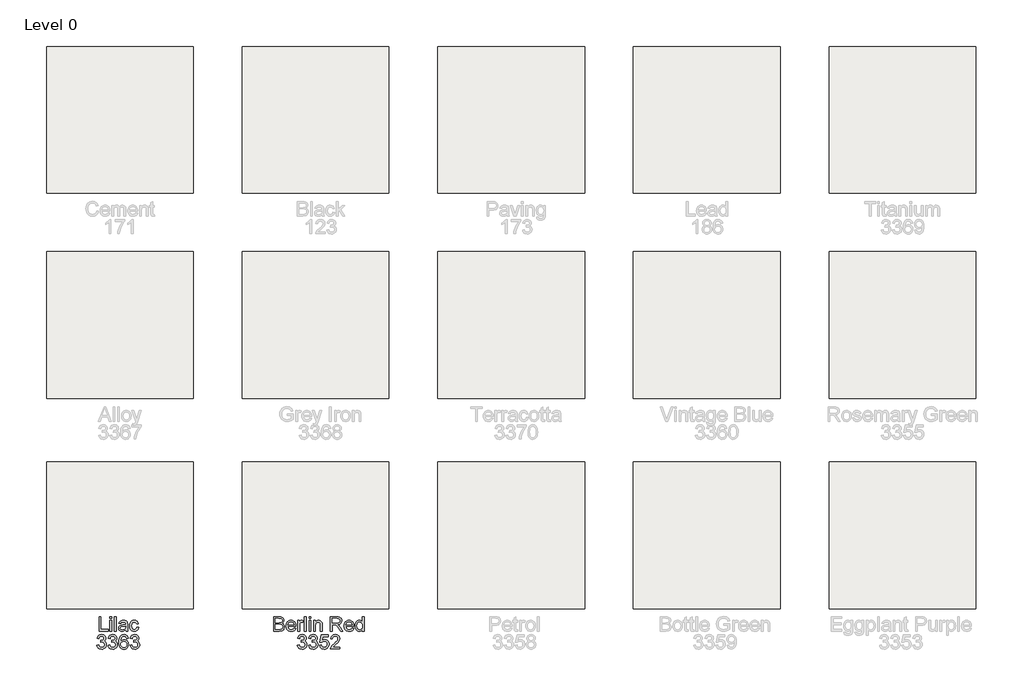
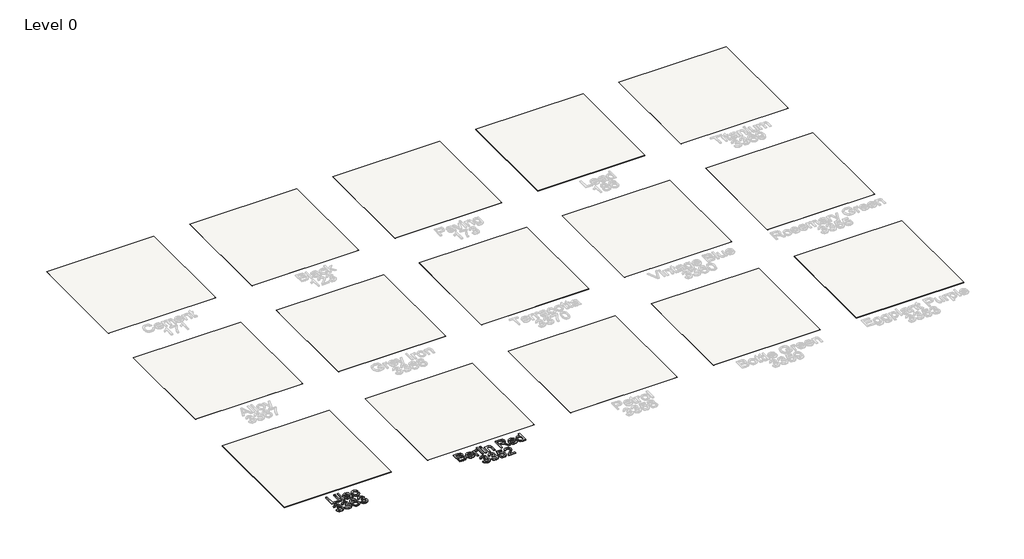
# One storey, part 1 of 6: 15 coverings, 2 proxies.
"""IFC4 building model written with IfcOpenShell, lengths in millimetres."""

from ifc_helpers import new_model, si_unit, frame, origin, origin_with_axes, place, context, project, spatial, polyline, outline, extrude, element, save

model = new_model("IFC4")

# Units and contexts
model_context = context("Model", 3, world=origin())
ifc_project = project(units=[si_unit("LENGTHUNIT", "METRE", prefix="MILLI")], contexts=[model_context])

# Site, building, storey
site = spatial("IfcSite", under=ifc_project)
building = spatial("IfcBuilding", under=site)
storey = spatial("IfcBuildingStorey", under=building, Name="Level 0", Elevation=0.0)

# Proxies
placement = place(None, origin())
element("IfcBuildingElementProxy", 1, Name="300mm Arial", ObjectType="300mm Arial", at=placement, inside=storey, context=model_context, shape_type="SweptSolid", body=[
    extrude(outline(polyline([(-8377.8562987, -6431.0059242), (-8377.8562987, -6135.6213089), (-8340.9332218, -6135.6213089), (-8340.9332218, -6394.0828473), (-8193.2409141, -6394.0828473), (-8193.2409141, -6431.0059242), (-8377.8562987, -6431.0059242)])), origin_with_axes(), (0.0, 0.0, 1.0), 20.0),
    extrude(outline(polyline([(-8156.3178371, -6172.5443858), (-8156.3178371, -6135.6213089), (-8119.3947602, -6135.6213089), (-8119.3947602, -6172.5443858), (-8156.3178371, -6172.5443858)])), origin_with_axes(), (0.0, 0.0, 1.0), 20.0),
    extrude(outline(polyline([(-8156.3178371, -6431.0059242), (-8156.3178371, -6214.0828473), (-8119.3947602, -6214.0828473), (-8119.3947602, -6431.0059242), (-8156.3178371, -6431.0059242)])), origin_with_axes(), (0.0, 0.0, 1.0), 20.0),
    extrude(outline(polyline([(-8064.0101448, -6431.0059242), (-8064.0101448, -6135.6213089), (-8027.0870679, -6135.6213089), (-8027.0870679, -6431.0059242), (-8064.0101448, -6431.0059242)])), origin_with_axes(), (0.0, 0.0, 1.0), 20.0),
    extrude(outline(polyline([(-7833.2409141, -6403.3136166), (-7850.88214, -6418.4398185), (-7869.0462025, -6428.337655), (-7888.147765, -6433.8003954), (-7908.601491, -6435.6213089), (-7939.4578612, -6431.2402992), (-7962.2192794, -6418.0972704), (-7976.2547362, -6398.1393377), (-7980.9332218, -6373.3136166), (-7979.1663948, -6358.0071262), (-7973.8659141, -6344.1068858), (-7965.6898323, -6332.2078473), (-7955.2962025, -6322.9049627), (-7929.4428371, -6310.7895781), (-7897.4957218, -6305.2366935), (-7859.7433179, -6299.3953473), (-7833.4572602, -6292.5443858), (-7833.2409141, -6284.3232319), (-7835.7829814, -6267.8448666), (-7843.4091833, -6257.0636166), (-7860.4644718, -6249.0588089), (-7884.226491, -6246.3905396), (-7906.2216833, -6248.166381), (-7921.5822602, -6253.493905), (-7932.0570198, -6263.3466694), (-7939.3947602, -6278.6982319), (-7976.3178371, -6274.0828473), (-7969.9085823, -6253.8905396), (-7960.3442794, -6238.025155), (-7946.7325006, -6225.8917416), (-7928.1808179, -6216.8953473), (-7905.491515, -6211.3244339), (-7879.4668756, -6209.4674627), (-7854.5059381, -6211.1080877), (-7834.7192794, -6216.0299627), (-7819.8004093, -6223.4308041), (-7809.4428371, -6232.5083281), (-7802.5738468, -6243.7312848), (-7798.1207218, -6257.5684242), (-7796.3178371, -6289.8761166), (-7796.3178371, -6335.8136166), (-7794.4428371, -6399.9602512), (-7787.0870679, -6431.0059242), (-7824.0101448, -6431.0059242), (-7833.2409141, -6403.3136166)]), holes=[polyline([(-7833.2409141, -6329.4674627), (-7892.8082218, -6340.7895781), (-7924.5750487, -6346.775155), (-7938.9620679, -6356.5107319), (-7944.0101448, -6370.7174627), (-7941.2607458, -6381.69703), (-7933.0125487, -6390.6934242), (-7919.4458419, -6396.69703), (-7900.7409141, -6398.6982319), (-7880.9091833, -6396.4896983), (-7863.3851448, -6389.8640973), (-7849.1784141, -6380.1014771), (-7839.2986064, -6368.4818858), (-7834.9175968, -6356.5107319), (-7833.4572602, -6339.9241935), (-7833.2409141, -6329.4674627)])]), origin_with_axes(), (0.0, 0.0, 1.0), 20.0),
    extrude(outline(polyline([(-7607.0870679, -6352.5443858), (-7570.163991, -6357.1597704), (-7580.4584621, -6389.9993137), (-7599.8034141, -6414.8160204), (-7626.3779333, -6430.4199867), (-7658.3611064, -6435.6213089), (-7679.0694898, -6433.8071562), (-7697.6369477, -6428.3646983), (-7714.0634802, -6419.2939351), (-7728.3490871, -6406.5948666), (-7739.9123383, -6390.506375), (-7748.1718035, -6371.2673425), (-7753.1274826, -6348.8777692), (-7754.7793756, -6323.337655), (-7751.9578612, -6290.4800829), (-7743.4933179, -6262.0035204), (-7729.2505294, -6239.0077271), (-7709.0942794, -6222.5924627), (-7684.9806977, -6212.7487127), (-7658.8659141, -6209.4674627), (-7627.6669958, -6213.9746742), (-7602.7240871, -6227.4963089), (-7584.8304573, -6249.3112127), (-7574.7793756, -6278.6982319), (-7611.7024525, -6283.3136166), (-7618.4001689, -6267.2048425), (-7628.8298564, -6255.6573666), (-7642.4145919, -6248.7072464), (-7658.5774525, -6246.3905396), (-7682.4386304, -6250.9518377), (-7701.3779333, -6264.6357319), (-7713.7367073, -6288.181405), (-7717.8562987, -6322.3280396), (-7713.8268516, -6356.9344098), (-7701.7385102, -6380.5612127), (-7683.1417554, -6394.1639771), (-7659.5870679, -6398.6982319), (-7640.4674766, -6395.8677031), (-7624.7913948, -6387.3761166), (-7613.3881496, -6373.0071262), (-7607.0870679, -6352.5443858)])), origin_with_axes(), (0.0, 0.0, 1.0), 20.0),
    extrude(outline(polyline([(-8421.7024525, -6717.1597704), (-8384.7793756, -6712.5443858), (-8376.5131496, -6735.7475108), (-8364.4067794, -6751.4145781), (-8347.8653131, -6760.3388569), (-8326.2937987, -6763.3136166), (-8300.9812987, -6759.2210685), (-8281.4380294, -6746.9434242), (-8268.9440391, -6728.6261166), (-8264.7793756, -6706.4145781), (-8268.9079814, -6685.3298425), (-8281.2937987, -6668.2294819), (-8300.0437987, -6656.8983521), (-8323.2649525, -6653.1213089), (-8349.1543756, -6657.1597704), (-8345.0437987, -6620.2366935), (-8339.1303371, -6620.6693858), (-8317.0089429, -6618.0191454), (-8297.2312987, -6610.0684242), (-8283.2769718, -6596.618905), (-8278.6255294, -6577.4722704), (-8281.9969237, -6561.525756), (-8292.1111064, -6548.5900589), (-8307.5437987, -6540.0173425), (-8326.8707218, -6537.1597704), (-8346.2337025, -6540.0443858), (-8362.0630294, -6548.6982319), (-8373.6195198, -6563.1213089), (-8380.163991, -6583.3136166), (-8417.0870679, -6578.6982319), (-8406.2156737, -6545.5431839), (-8386.8707218, -6520.7895781), (-8360.4043756, -6505.3749146), (-8328.1687987, -6500.2366935), (-8304.9566593, -6502.7697464), (-8283.6375487, -6510.368905), (-8265.6627891, -6522.3580877), (-8252.4837025, -6538.0612127), (-8244.397765, -6556.1531598), (-8241.7024525, -6575.3088089), (-8244.2625487, -6593.1573666), (-8251.9428371, -6609.3472704), (-8264.6351448, -6623.1393377), (-8282.2312987, -6633.7943858), (-8259.1183179, -6643.1333281), (-8241.9909141, -6659.0347704), (-8231.3899525, -6680.6333281), (-8227.8562987, -6707.0636166), (-8229.6231256, -6725.7955877), (-8234.9236064, -6743.0491935), (-8243.757741, -6758.8244339), (-8256.1255294, -6773.1213089), (-8271.1931376, -6784.9842896), (-8288.1267314, -6793.4578473), (-8306.9263107, -6798.5419819), (-8327.5918756, -6800.2366935), (-8363.288991, -6794.4494339), (-8378.6495679, -6787.2153593), (-8392.351491, -6777.087655), (-8403.8403732, -6764.6612728), (-8412.5618275, -6750.5311646), (-8421.7024525, -6717.1597704)])), origin_with_axes(), (0.0, 0.0, 1.0), 20.0),
    extrude(outline(polyline([(-8195.5486064, -6717.1597704), (-8158.6255294, -6712.5443858), (-8150.3593035, -6735.7475108), (-8138.2529333, -6751.4145781), (-8121.7114669, -6760.3388569), (-8100.1399525, -6763.3136166), (-8074.8274525, -6759.2210685), (-8055.2841833, -6746.9434242), (-8042.7901929, -6728.6261166), (-8038.6255294, -6706.4145781), (-8042.7541352, -6685.3298425), (-8055.1399525, -6668.2294819), (-8073.8899525, -6656.8983521), (-8097.1111064, -6653.1213089), (-8123.0005294, -6657.1597704), (-8118.8899525, -6620.2366935), (-8112.976491, -6620.6693858), (-8090.8550968, -6618.0191454), (-8071.0774525, -6610.0684242), (-8057.1231256, -6596.618905), (-8052.4716833, -6577.4722704), (-8055.8430775, -6561.525756), (-8065.9572602, -6548.5900589), (-8081.3899525, -6540.0173425), (-8100.7168756, -6537.1597704), (-8120.0798564, -6540.0443858), (-8135.9091833, -6548.6982319), (-8147.4656737, -6563.1213089), (-8154.0101448, -6583.3136166), (-8190.9332218, -6578.6982319), (-8180.0618275, -6545.5431839), (-8160.7168756, -6520.7895781), (-8134.2505294, -6505.3749146), (-8102.0149525, -6500.2366935), (-8078.8028131, -6502.7697464), (-8057.4837025, -6510.368905), (-8039.5089429, -6522.3580877), (-8026.3298564, -6538.0612127), (-8018.2439189, -6556.1531598), (-8015.5486064, -6575.3088089), (-8018.1087025, -6593.1573666), (-8025.788991, -6609.3472704), (-8038.4812987, -6623.1393377), (-8056.0774525, -6633.7943858), (-8032.9644718, -6643.1333281), (-8015.8370679, -6659.0347704), (-8005.2361064, -6680.6333281), (-8001.7024525, -6707.0636166), (-8003.4692794, -6725.7955877), (-8008.7697602, -6743.0491935), (-8017.6038948, -6758.8244339), (-8029.9716833, -6773.1213089), (-8045.0392915, -6784.9842896), (-8061.9728852, -6793.4578473), (-8080.7724645, -6798.5419819), (-8101.4380294, -6800.2366935), (-8137.1351448, -6794.4494339), (-8152.4957218, -6787.2153593), (-8166.1976448, -6777.087655), (-8177.686527, -6764.6612728), (-8186.4079814, -6750.5311646), (-8195.5486064, -6717.1597704)])), origin_with_axes(), (0.0, 0.0, 1.0), 20.0),
    extrude(outline(polyline([(-7780.163991, -6578.6982319), (-7817.0870679, -6583.3136166), (-7823.0365871, -6565.0143377), (-7831.0774525, -6552.5203473), (-7847.8262506, -6540.9999146), (-7868.0726448, -6537.1597704), (-7885.2361064, -6539.3953473), (-7901.3899525, -6546.1020781), (-7915.2631496, -6560.2276791), (-7926.5942794, -6579.6717896), (-7934.2475246, -6607.1747944), (-7937.0870679, -6645.4770781), (-7922.2763708, -6628.1964291), (-7904.5269718, -6616.0179435), (-7884.8304573, -6608.7973906), (-7864.1784141, -6606.3905396), (-7846.4380294, -6608.0356718), (-7830.0678371, -6612.9710685), (-7815.0678371, -6621.1967295), (-7801.4380294, -6632.712655), (-7790.1114068, -6646.8337488), (-7782.0209621, -6662.8749146), (-7777.1666953, -6680.8361526), (-7775.5486064, -6700.7174627), (-7778.5954814, -6727.1567656), (-7787.7361064, -6751.6669819), (-7802.2132698, -6772.4542416), (-7821.2697602, -6787.7246742), (-7844.0401929, -6797.1086887), (-7869.6591833, -6800.2366935), (-7891.6701508, -6798.1633762), (-7911.5492073, -6791.9434242), (-7929.2963528, -6781.5768377), (-7944.9115871, -6767.0636166), (-7957.6422061, -6747.79078), (-7966.7355054, -6723.1453473), (-7972.191485, -6693.1273185), (-7974.0101448, -6657.7366935), (-7971.9909141, -6618.0597103), (-7965.9332218, -6584.19703), (-7955.8370679, -6556.1486526), (-7941.7024525, -6533.9145781), (-7926.3824405, -6519.1805036), (-7908.6195198, -6508.6561646), (-7888.4136905, -6502.3415613), (-7865.7649525, -6500.2366935), (-7833.367116, -6505.44703), (-7807.4236064, -6521.0780396), (-7789.2505294, -6545.9037608), (-7780.163991, -6578.6982319)]), holes=[polyline([(-7937.0870679, -6700.1405396), (-7934.9506496, -6716.5017175), (-7928.5413948, -6732.1237127), (-7918.5894718, -6745.5552031), (-7905.8250487, -6755.3448666), (-7890.4193996, -6761.3214291), (-7872.5437987, -6763.3136166), (-7848.1778131, -6759.1850108), (-7829.0221641, -6746.7991935), (-7816.6093035, -6727.3280396), (-7812.4716833, -6701.9434242), (-7816.5552169, -6677.5774387), (-7828.8058179, -6658.9987127), (-7848.2859862, -6647.2348906), (-7874.0582218, -6643.3136166), (-7898.3881496, -6647.2348906), (-7918.7337025, -6658.9987127), (-7932.4987266, -6677.1267175), (-7937.0870679, -6700.1405396)])]), origin_with_axes(), (0.0, 0.0, 1.0), 20.0),
    extrude(outline(polyline([(-7743.2409141, -6717.1597704), (-7706.3178371, -6712.5443858), (-7698.0516112, -6735.7475108), (-7685.945241, -6751.4145781), (-7669.4037746, -6760.3388569), (-7647.8322602, -6763.3136166), (-7622.5197602, -6759.2210685), (-7602.976491, -6746.9434242), (-7590.4825006, -6728.6261166), (-7586.3178371, -6706.4145781), (-7590.4464429, -6685.3298425), (-7602.8322602, -6668.2294819), (-7621.5822602, -6656.8983521), (-7644.8034141, -6653.1213089), (-7670.6928371, -6657.1597704), (-7666.5822602, -6620.2366935), (-7660.6687987, -6620.6693858), (-7638.5474044, -6618.0191454), (-7618.7697602, -6610.0684242), (-7604.8154333, -6596.618905), (-7600.163991, -6577.4722704), (-7603.5353852, -6561.525756), (-7613.6495679, -6548.5900589), (-7629.0822602, -6540.0173425), (-7648.4091833, -6537.1597704), (-7667.7721641, -6540.0443858), (-7683.601491, -6548.6982319), (-7695.1579814, -6563.1213089), (-7701.7024525, -6583.3136166), (-7738.6255294, -6578.6982319), (-7727.7541352, -6545.5431839), (-7708.4091833, -6520.7895781), (-7681.9428371, -6505.3749146), (-7649.7072602, -6500.2366935), (-7626.4951208, -6502.7697464), (-7605.1760102, -6510.368905), (-7587.2012506, -6522.3580877), (-7574.0221641, -6538.0612127), (-7565.9362266, -6556.1531598), (-7563.2409141, -6575.3088089), (-7565.8010102, -6593.1573666), (-7573.4812987, -6609.3472704), (-7586.1736064, -6623.1393377), (-7603.7697602, -6633.7943858), (-7580.6567794, -6643.1333281), (-7563.5293756, -6659.0347704), (-7552.9284141, -6680.6333281), (-7549.3947602, -6707.0636166), (-7551.1615871, -6725.7955877), (-7556.4620679, -6743.0491935), (-7565.2962025, -6758.8244339), (-7577.663991, -6773.1213089), (-7592.7315992, -6784.9842896), (-7609.6651929, -6793.4578473), (-7628.4647722, -6798.5419819), (-7649.1303371, -6800.2366935), (-7684.8274525, -6794.4494339), (-7700.1880294, -6787.2153593), (-7713.8899525, -6777.087655), (-7725.3788347, -6764.6612728), (-7734.1002891, -6750.5311646), (-7743.2409141, -6717.1597704)])), origin_with_axes(), (0.0, 0.0, 1.0), 20.0),
])
element("IfcBuildingElementProxy", 2, Name="300mm Arial", ObjectType="300mm Arial", at=placement, inside=storey, context=model_context, shape_type="SweptSolid", body=[
    extrude(outline(polyline([(-4810.9332218, -6431.0059242), (-4810.9332218, -6135.6213089), (-4698.2168756, -6135.6213089), (-4667.2162746, -6137.7937848), (-4643.0125487, -6144.3112127), (-4624.460866, -6155.3358521), (-4610.4163948, -6171.0299627), (-4601.5732458, -6189.4915012), (-4598.6255294, -6208.8184242), (-4601.1044958, -6226.603881), (-4608.5413948, -6243.3256358), (-4620.9903131, -6257.9560444), (-4638.5053371, -6269.4674627), (-4617.5828612, -6280.3929435), (-4602.1231256, -6297.0155396), (-4592.5768516, -6318.2354916), (-4589.3947602, -6342.9530396), (-4591.5672362, -6363.5509964), (-4598.0846641, -6382.6525589), (-4607.8112266, -6398.8965492), (-4619.6111064, -6410.9217896), (-4634.0612266, -6419.6297223), (-4651.7385102, -6425.9217896), (-4699.0822602, -6431.0059242), (-4810.9332218, -6431.0059242)]), holes=[polyline([(-4774.0101448, -6394.0828473), (-4698.288991, -6394.0828473), (-4670.8851448, -6392.6405396), (-4647.7000487, -6384.5996742), (-4632.3394718, -6368.1934242), (-4627.8232458, -6356.6008762), (-4626.3178371, -6343.3136166), (-4628.0846641, -6327.8809242), (-4633.3851448, -6314.6116935), (-4642.6429573, -6304.2360925), (-4656.2817794, -6297.4842896), (-4675.5996881, -6293.7793617), (-4701.8947602, -6292.5443858), (-4774.0101448, -6292.5443858), (-4774.0101448, -6394.0828473)]), polyline([(-4774.0101448, -6255.6213089), (-4706.5822602, -6255.6213089), (-4667.2072602, -6252.4482319), (-4653.4242073, -6246.9764771), (-4643.5173564, -6238.7823666), (-4637.5407939, -6227.9921021), (-4635.5486064, -6214.7318858), (-4637.4055775, -6201.8592896), (-4642.976491, -6190.6453473), (-4652.0089429, -6181.8923425), (-4664.2505294, -6176.4025589), (-4711.7024525, -6172.5443858), (-4774.0101448, -6172.5443858), (-4774.0101448, -6255.6213089)])]), origin_with_axes(), (0.0, 0.0, 1.0), 20.0),
    extrude(outline(polyline([(-4391.3659141, -6366.3905396), (-4355.163991, -6371.0059242), (-4368.2078612, -6398.2835685), (-4389.0221641, -6418.6741935), (-4417.1381496, -6431.38453), (-4452.0870679, -6435.6213089), (-4474.9972242, -6433.7936346), (-4495.4103852, -6428.3106117), (-4513.3265511, -6419.1722404), (-4528.7457218, -6406.3785204), (-4541.1450607, -6390.2855216), (-4550.0017314, -6371.2493137), (-4555.3157338, -6349.2698966), (-4557.0870679, -6324.3472704), (-4555.2977049, -6298.579542), (-4549.929616, -6275.8677031), (-4540.9828011, -6256.2117536), (-4528.4572602, -6239.6116935), (-4513.0786544, -6226.4235925), (-4495.5726448, -6217.0035204), (-4475.9392314, -6211.3514771), (-4454.1784141, -6209.4674627), (-4433.1184681, -6211.3469699), (-4414.0732458, -6216.9854916), (-4397.042747, -6226.3830276), (-4382.0269718, -6239.5395781), (-4369.76961, -6256.1035805), (-4361.0143516, -6275.7234723), (-4355.7611965, -6298.3992536), (-4354.0101448, -6324.1309242), (-4354.226491, -6334.0828473), (-4520.163991, -6334.0828473), (-4513.772765, -6361.7210685), (-4498.9260102, -6382.0395781), (-4477.4987266, -6394.5335685), (-4451.3659141, -6398.6982319), (-4431.7144718, -6396.7691454), (-4415.163991, -6390.9818858), (-4401.7144718, -6380.9758762), (-4391.3659141, -6366.3905396)]), holes=[polyline([(-4520.163991, -6297.1597704), (-4390.9332218, -6297.1597704), (-4395.9272121, -6277.6525589), (-4405.7168756, -6263.6982319), (-4427.2433179, -6250.7174627), (-4454.3226448, -6246.3905396), (-4479.2114669, -6249.8430637), (-4499.7913948, -6260.2006358), (-4514.0972843, -6276.3454675), (-4520.163991, -6297.1597704)])]), origin_with_axes(), (0.0, 0.0, 1.0), 20.0),
    extrude(outline(polyline([(-4317.0870679, -6431.0059242), (-4317.0870679, -6214.0828473), (-4284.7793756, -6214.0828473), (-4284.7793756, -6246.1741935), (-4272.8442794, -6227.5684242), (-4261.8466833, -6216.6068858), (-4250.8130294, -6211.2523185), (-4238.7697602, -6209.4674627), (-4220.3803371, -6212.3160204), (-4201.7024525, -6220.8616935), (-4214.0341833, -6253.962655), (-4227.0149525, -6248.2835685), (-4239.9957218, -6246.3905396), (-4251.0203612, -6248.2114531), (-4260.8731256, -6253.6741935), (-4268.8328612, -6262.3640973), (-4274.1784141, -6273.8665012), (-4278.6675968, -6294.4915012), (-4280.163991, -6316.9915012), (-4280.163991, -6431.0059242), (-4317.0870679, -6431.0059242)])), origin_with_axes(), (0.0, 0.0, 1.0), 20.0),
    extrude(outline(polyline([(-4178.6255294, -6431.0059242), (-4178.6255294, -6135.6213089), (-4141.7024525, -6135.6213089), (-4141.7024525, -6431.0059242), (-4178.6255294, -6431.0059242)])), origin_with_axes(), (0.0, 0.0, 1.0), 20.0),
    extrude(outline(polyline([(-4086.3178371, -6431.0059242), (-4086.3178371, -6214.0828473), (-4049.3947602, -6214.0828473), (-4049.3947602, -6431.0059242), (-4086.3178371, -6431.0059242)])), origin_with_axes(), (0.0, 0.0, 1.0), 20.0),
    extrude(outline(polyline([(-4086.3178371, -6172.5443858), (-4086.3178371, -6135.6213089), (-4049.3947602, -6135.6213089), (-4049.3947602, -6172.5443858), (-4086.3178371, -6172.5443858)])), origin_with_axes(), (0.0, 0.0, 1.0), 20.0),
    extrude(outline(polyline([(-3994.0101448, -6431.0059242), (-3994.0101448, -6214.0828473), (-3957.0870679, -6214.0828473), (-3957.0870679, -6244.3713089), (-3944.2595439, -6229.1008762), (-3928.8538948, -6218.1934242), (-3910.8701208, -6211.6489531), (-3890.3082218, -6209.4674627), (-3872.1081016, -6211.2252752), (-3855.4404333, -6216.4987127), (-3841.5401929, -6224.6297223), (-3831.6423564, -6234.9602512), (-3820.5726448, -6262.1116935), (-3818.6255294, -6297.8088089), (-3818.6255294, -6431.0059242), (-3855.5486064, -6431.0059242), (-3855.5486064, -6302.7847704), (-3859.8034141, -6270.1165012), (-3865.6898323, -6260.3899387), (-3874.8394718, -6252.8448666), (-3886.5672362, -6248.0041214), (-3900.1880294, -6246.3905396), (-3921.8136304, -6250.0143377), (-3940.2481256, -6260.8857319), (-3947.6151629, -6269.7604315), (-3952.8773323, -6281.8893377), (-3957.0870679, -6315.9097704), (-3957.0870679, -6431.0059242), (-3994.0101448, -6431.0059242)])), origin_with_axes(), (0.0, 0.0, 1.0), 20.0),
    extrude(outline(polyline([(-3647.8562987, -6431.0059242), (-3647.8562987, -6135.6213089), (-3520.5726448, -6135.6213089), (-3486.3629093, -6137.6134964), (-3461.4740871, -6143.5900589), (-3443.2829814, -6154.6237127), (-3429.1663948, -6171.7871742), (-3420.1068996, -6193.0702271), (-3417.0870679, -6216.462655), (-3422.0900727, -6245.5612127), (-3437.0990871, -6269.6838089), (-3448.4685282, -6279.5140372), (-3462.5648323, -6287.3701069), (-3498.9380294, -6297.1597704), (-3477.9524525, -6312.9530396), (-3448.0245679, -6350.9578473), (-3398.7697602, -6431.0059242), (-3441.6784141, -6431.0059242), (-3480.1159141, -6369.7799627), (-3507.8803371, -6329.2511166), (-3527.3875487, -6310.1044819), (-3544.9476448, -6303.0732319), (-3566.3659141, -6301.775155), (-3610.9332218, -6301.775155), (-3610.9332218, -6431.0059242), (-3647.8562987, -6431.0059242)]), holes=[polyline([(-3610.9332218, -6264.8520781), (-3528.288991, -6264.8520781), (-3504.554015, -6263.5449867), (-3486.1375487, -6259.6237127), (-3472.273366, -6252.8268377), (-3462.195241, -6242.8929435), (-3456.0564189, -6230.8767175), (-3454.0101448, -6217.8328473), (-3457.91339, -6199.82203), (-3469.6231256, -6185.3088089), (-3489.7703612, -6175.7354916), (-3518.9861064, -6172.5443858), (-3610.9332218, -6172.5443858), (-3610.9332218, -6264.8520781)])]), origin_with_axes(), (0.0, 0.0, 1.0), 20.0),
    extrude(outline(polyline([(-3205.2120679, -6366.3905396), (-3169.0101448, -6371.0059242), (-3182.054015, -6398.2835685), (-3202.8683179, -6418.6741935), (-3230.9843035, -6431.38453), (-3265.9332218, -6435.6213089), (-3288.843378, -6433.7936346), (-3309.2565391, -6428.3106117), (-3327.1727049, -6419.1722404), (-3342.5918756, -6406.3785204), (-3354.9912145, -6390.2855216), (-3363.8478852, -6371.2493137), (-3369.1618876, -6349.2698966), (-3370.9332218, -6324.3472704), (-3369.1438588, -6298.579542), (-3363.7757698, -6275.8677031), (-3354.8289549, -6256.2117536), (-3342.3034141, -6239.6116935), (-3326.9248083, -6226.4235925), (-3309.4187987, -6217.0035204), (-3289.7853852, -6211.3514771), (-3268.0245679, -6209.4674627), (-3246.964622, -6211.3469699), (-3227.9193996, -6216.9854916), (-3210.8889008, -6226.3830276), (-3195.8731256, -6239.5395781), (-3183.6157638, -6256.1035805), (-3174.8605054, -6275.7234723), (-3169.6073504, -6298.3992536), (-3167.8562987, -6324.1309242), (-3168.0726448, -6334.0828473), (-3334.0101448, -6334.0828473), (-3327.6189189, -6361.7210685), (-3312.7721641, -6382.0395781), (-3291.3448804, -6394.5335685), (-3265.2120679, -6398.6982319), (-3245.5606256, -6396.7691454), (-3229.0101448, -6390.9818858), (-3215.5606256, -6380.9758762), (-3205.2120679, -6366.3905396)]), holes=[polyline([(-3334.0101448, -6297.1597704), (-3204.7793756, -6297.1597704), (-3209.773366, -6277.6525589), (-3219.5630294, -6263.6982319), (-3241.0894718, -6250.7174627), (-3268.1687987, -6246.3905396), (-3293.0576208, -6249.8430637), (-3313.6375487, -6260.2006358), (-3327.9434381, -6276.3454675), (-3334.0101448, -6297.1597704)])]), origin_with_axes(), (0.0, 0.0, 1.0), 20.0),
    extrude(outline(polyline([(-2997.0870679, -6431.0059242), (-2997.0870679, -6396.1741935), (-3008.1342434, -6413.4323065), (-3021.5161544, -6425.75953), (-3037.2328011, -6433.1558642), (-3055.2841833, -6435.6213089), (-3079.1543756, -6432.0515973), (-3101.0053371, -6421.3424627), (-3119.5029333, -6404.2421021), (-3133.3130294, -6381.4987127), (-3141.9127891, -6354.0317656), (-3144.7793756, -6322.7607319), (-3142.1381496, -6291.8773185), (-3134.2144718, -6263.9866935), (-3121.0173564, -6240.6753954), (-3102.5558179, -6223.5299627), (-3080.2270919, -6212.9830877), (-3055.4284141, -6209.4674627), (-3037.3635102, -6211.9824867), (-3021.3899525, -6219.5275589), (-3007.8502891, -6231.0930637), (-2997.0870679, -6245.6693858), (-2997.0870679, -6135.6213089), (-2960.163991, -6135.6213089), (-2960.163991, -6431.0059242), (-2997.0870679, -6431.0059242)]), holes=[polyline([(-3107.8562987, -6322.6165012), (-3103.6916352, -6356.0149387), (-3091.1976448, -6379.7679435), (-3073.0425968, -6393.9656598), (-3051.8947602, -6398.6982319), (-3030.7559381, -6394.182006), (-3013.0606256, -6380.6333281), (-3001.0804573, -6357.7997944), (-2997.0870679, -6325.4290012), (-3001.1525727, -6290.0383762), (-3013.3490871, -6265.5011166), (-3031.4951208, -6251.1681839), (-3053.4091833, -6246.3905396), (-3074.773366, -6250.978881), (-3092.2793756, -6264.743905), (-3103.9620679, -6288.3887367), (-3107.8562987, -6322.6165012)])]), origin_with_axes(), (0.0, 0.0, 1.0), 20.0),
    extrude(outline(polyline([(-4321.7024525, -6717.1597704), (-4284.7793756, -6712.5443858), (-4276.5131496, -6735.7475108), (-4264.4067794, -6751.4145781), (-4247.8653131, -6760.3388569), (-4226.2937987, -6763.3136166), (-4200.9812987, -6759.2210685), (-4181.4380294, -6746.9434242), (-4168.9440391, -6728.6261166), (-4164.7793756, -6706.4145781), (-4168.9079814, -6685.3298425), (-4181.2937987, -6668.2294819), (-4200.0437987, -6656.8983521), (-4223.2649525, -6653.1213089), (-4249.1543756, -6657.1597704), (-4245.0437987, -6620.2366935), (-4239.1303371, -6620.6693858), (-4217.0089429, -6618.0191454), (-4197.2312987, -6610.0684242), (-4183.2769718, -6596.618905), (-4178.6255294, -6577.4722704), (-4181.9969237, -6561.525756), (-4192.1111064, -6548.5900589), (-4207.5437987, -6540.0173425), (-4226.8707218, -6537.1597704), (-4246.2337025, -6540.0443858), (-4262.0630294, -6548.6982319), (-4273.6195198, -6563.1213089), (-4280.163991, -6583.3136166), (-4317.0870679, -6578.6982319), (-4306.2156737, -6545.5431839), (-4286.8707218, -6520.7895781), (-4260.4043756, -6505.3749146), (-4228.1687987, -6500.2366935), (-4204.9566593, -6502.7697464), (-4183.6375487, -6510.368905), (-4165.6627891, -6522.3580877), (-4152.4837025, -6538.0612127), (-4144.397765, -6556.1531598), (-4141.7024525, -6575.3088089), (-4144.2625487, -6593.1573666), (-4151.9428371, -6609.3472704), (-4164.6351448, -6623.1393377), (-4182.2312987, -6633.7943858), (-4159.1183179, -6643.1333281), (-4141.9909141, -6659.0347704), (-4131.3899525, -6680.6333281), (-4127.8562987, -6707.0636166), (-4129.6231256, -6725.7955877), (-4134.9236064, -6743.0491935), (-4143.757741, -6758.8244339), (-4156.1255294, -6773.1213089), (-4171.1931376, -6784.9842896), (-4188.1267314, -6793.4578473), (-4206.9263107, -6798.5419819), (-4227.5918756, -6800.2366935), (-4263.288991, -6794.4494339), (-4278.6495679, -6787.2153593), (-4292.351491, -6777.087655), (-4303.8403732, -6764.6612728), (-4312.5618275, -6750.5311646), (-4321.7024525, -6717.1597704)])), origin_with_axes(), (0.0, 0.0, 1.0), 20.0),
    extrude(outline(polyline([(-4095.5486064, -6717.1597704), (-4058.6255294, -6712.5443858), (-4050.3593035, -6735.7475108), (-4038.2529333, -6751.4145781), (-4021.7114669, -6760.3388569), (-4000.1399525, -6763.3136166), (-3974.8274525, -6759.2210685), (-3955.2841833, -6746.9434242), (-3942.7901929, -6728.6261166), (-3938.6255294, -6706.4145781), (-3942.7541352, -6685.3298425), (-3955.1399525, -6668.2294819), (-3973.8899525, -6656.8983521), (-3997.1111064, -6653.1213089), (-4023.0005294, -6657.1597704), (-4018.8899525, -6620.2366935), (-4012.976491, -6620.6693858), (-3990.8550968, -6618.0191454), (-3971.0774525, -6610.0684242), (-3957.1231256, -6596.618905), (-3952.4716833, -6577.4722704), (-3955.8430775, -6561.525756), (-3965.9572602, -6548.5900589), (-3981.3899525, -6540.0173425), (-4000.7168756, -6537.1597704), (-4020.0798564, -6540.0443858), (-4035.9091833, -6548.6982319), (-4047.4656737, -6563.1213089), (-4054.0101448, -6583.3136166), (-4090.9332218, -6578.6982319), (-4080.0618275, -6545.5431839), (-4060.7168756, -6520.7895781), (-4034.2505294, -6505.3749146), (-4002.0149525, -6500.2366935), (-3978.8028131, -6502.7697464), (-3957.4837025, -6510.368905), (-3939.5089429, -6522.3580877), (-3926.3298564, -6538.0612127), (-3918.2439189, -6556.1531598), (-3915.5486064, -6575.3088089), (-3918.1087025, -6593.1573666), (-3925.788991, -6609.3472704), (-3938.4812987, -6623.1393377), (-3956.0774525, -6633.7943858), (-3932.9644718, -6643.1333281), (-3915.8370679, -6659.0347704), (-3905.2361064, -6680.6333281), (-3901.7024525, -6707.0636166), (-3903.4692794, -6725.7955877), (-3908.7697602, -6743.0491935), (-3917.6038948, -6758.8244339), (-3929.9716833, -6773.1213089), (-3945.0392915, -6784.9842896), (-3961.9728852, -6793.4578473), (-3980.7724645, -6798.5419819), (-4001.4380294, -6800.2366935), (-4037.1351448, -6794.4494339), (-4052.4957218, -6787.2153593), (-4066.1976448, -6777.087655), (-4077.686527, -6764.6612728), (-4086.4079814, -6750.5311646), (-4095.5486064, -6717.1597704)])), origin_with_axes(), (0.0, 0.0, 1.0), 20.0),
    extrude(outline(polyline([(-3869.3947602, -6717.1597704), (-3832.4716833, -6712.5443858), (-3825.6928371, -6734.7108521), (-3813.8659141, -6750.5852512), (-3797.0450006, -6760.1315252), (-3775.2841833, -6763.3136166), (-3748.8178371, -6758.8875348), (-3728.9861064, -6745.6092896), (-3716.6002891, -6725.0113329), (-3712.4716833, -6698.6261166), (-3716.3388708, -6673.7823666), (-3727.9404333, -6654.7799627), (-3747.366515, -6642.7186646), (-3774.7072602, -6638.6982319), (-3792.6189189, -6640.3027992), (-3807.1231256, -6645.1165012), (-3827.8562987, -6661.775155), (-3864.7793756, -6657.1597704), (-3832.4716833, -6504.8520781), (-3689.3947602, -6504.8520781), (-3689.3947602, -6541.775155), (-3802.6159141, -6541.775155), (-3818.4091833, -6623.1213089), (-3792.0329814, -6607.1116935), (-3764.3947602, -6601.775155), (-3746.4132398, -6603.4293017), (-3729.8965631, -6608.3917416), (-3714.8447302, -6616.6624747), (-3701.257741, -6628.2415012), (-3690.0099946, -6642.4211887), (-3681.97589, -6658.493905), (-3677.1554273, -6676.4596502), (-3675.5486064, -6696.3184242), (-3681.335866, -6733.2415012), (-3688.5699405, -6749.7018377), (-3698.6976448, -6764.8280396), (-3714.0401929, -6780.3193257), (-3731.9428371, -6791.38453), (-3752.4055775, -6798.0236526), (-3775.4284141, -6800.2366935), (-3811.6934381, -6794.5485925), (-3827.0607758, -6787.4384663), (-3840.5846641, -6777.4842896), (-3851.8369177, -6765.1818557), (-3860.3893516, -6751.0269579), (-3869.3947602, -6717.1597704)])), origin_with_axes(), (0.0, 0.0, 1.0), 20.0),
    extrude(outline(polyline([(-3454.0101448, -6758.6982319), (-3454.0101448, -6795.6213089), (-3647.8562987, -6795.6213089), (-3643.8899525, -6770.1645781), (-3634.7853852, -6750.2697464), (-3621.4620679, -6730.9698666), (-3602.1892314, -6710.7685444), (-3575.2361064, -6688.1693858), (-3535.3923564, -6652.7787608), (-3511.4861064, -6626.6549627), (-3499.5329814, -6605.4530396), (-3495.5486064, -6584.8280396), (-3499.3076208, -6566.3394579), (-3510.5846641, -6550.9698666), (-3527.9193996, -6540.6122944), (-3549.851491, -6537.1597704), (-3572.8833419, -6540.5311646), (-3590.7769718, -6550.6453473), (-3602.3244477, -6566.7090492), (-3606.3178371, -6587.9290012), (-3643.2409141, -6583.3136166), (-3634.2895919, -6547.5984723), (-3625.9129393, -6533.3511767), (-3614.9356256, -6521.5107319), (-3601.6100547, -6512.2033401), (-3586.1886304, -6505.5552031), (-3549.0582218, -6500.2366935), (-3529.2693095, -6501.7150589), (-3511.6573804, -6506.150155), (-3496.2224345, -6513.5419819), (-3482.9644718, -6523.8905396), (-3472.3161845, -6536.4296021), (-3464.710265, -6550.3929435), (-3460.1467133, -6565.7805637), (-3458.6255294, -6582.5924627), (-3460.2661544, -6600.2517175), (-3465.1880294, -6617.6044819), (-3473.9230054, -6635.2547223), (-3487.0029333, -6653.806405), (-3507.8532939, -6675.9548425), (-3539.8995679, -6704.3953473), (-3582.3755294, -6739.9121742), (-3599.0341833, -6758.6982319), (-3454.0101448, -6758.6982319)])), origin_with_axes(), (0.0, 0.0, 1.0), 20.0),
])

# Coverings
element("IfcCovering", 3, ObjectType="Floor_LinoleumFlooring_Forbo_MarmoleumWalton_Cement_171", at=placement, inside=storey, context=model_context, shape_type="SweptSolid", body=[
    extrude(outline(polyline([(-6452.3444956, 5530.5192898), (-6452.3444956, 2530.5192898), (-9452.3444956, 2530.5192898), (-9452.3444956, 5530.5192898), (-6452.3444956, 5530.5192898)])), frame((0.0, 0.0, -2.5), z_axis=(0.0, 0.0, 1.0), x_axis=(1.0, 0.0, 0.0)), (0.0, 0.0, 1.0), 2.5),
])
element("IfcCovering", 4, ObjectType="Floor_LinoleumFlooring_Forbo_MarmoleumWalton_Black_123", at=placement, inside=storey, context=model_context, shape_type="SweptSolid", body=[
    extrude(outline(polyline([(-2452.3444956, 5530.5192898), (-2452.3444956, 2530.5192898), (-5452.3444956, 2530.5192898), (-5452.3444956, 5530.5192898), (-2452.3444956, 5530.5192898)])), frame((0.0, 0.0, -2.5), z_axis=(0.0, 0.0, 1.0), x_axis=(1.0, 0.0, 0.0)), (0.0, 0.0, 1.0), 2.5),
])
element("IfcCovering", 5, ObjectType="Floor_LinoleumFlooring_Forbo_MarmoleumWalton_Lead_186", at=placement, inside=storey, context=model_context, shape_type="SweptSolid", body=[
    extrude(outline(polyline([(5547.6555044, 5530.5192898), (5547.6555044, 2530.5192898), (2547.6555044, 2530.5192898), (2547.6555044, 5530.5192898), (5547.6555044, 5530.5192898)])), frame((0.0, 0.0, -2.5), z_axis=(0.0, 0.0, 1.0), x_axis=(1.0, 0.0, 0.0)), (0.0, 0.0, 1.0), 2.5),
])
element("IfcCovering", 6, ObjectType="Floor_LinoleumFlooring_Forbo_MarmoleumWalton_Paving_173", at=placement, inside=storey, context=model_context, shape_type="SweptSolid", body=[
    extrude(outline(polyline([(1547.6555044, 5530.5192898), (1547.6555044, 2530.5192898), (-1452.3444956, 2530.5192898), (-1452.3444956, 5530.5192898), (1547.6555044, 5530.5192898)])), frame((0.0, 0.0, -2.5), z_axis=(0.0, 0.0, 1.0), x_axis=(1.0, 0.0, 0.0)), (0.0, 0.0, 1.0), 2.5),
])
element("IfcCovering", 7, ObjectType="Floor_LinoleumFlooring_Forbo_MarmoleumWalton_Titanium_3369", at=placement, inside=storey, context=model_context, shape_type="SweptSolid", body=[
    extrude(outline(polyline([(9547.6555044, 5530.5192898), (9547.6555044, 2530.5192898), (6547.6555044, 2530.5192898), (6547.6555044, 5530.5192898), (9547.6555044, 5530.5192898)])), frame((0.0, 0.0, -2.5), z_axis=(0.0, 0.0, 1.0), x_axis=(1.0, 0.0, 0.0)), (0.0, 0.0, 1.0), 2.5),
])
element("IfcCovering", 8, ObjectType="Floor_LinoleumFlooring_Forbo_MarmoleumWalton_Alloy_3367", at=placement, inside=storey, context=model_context, shape_type="SweptSolid", body=[
    extrude(outline(polyline([(-6452.3444956, 1330.5192898), (-6452.3444956, -1669.4807102), (-9452.3444956, -1669.4807102), (-9452.3444956, 1330.5192898), (-6452.3444956, 1330.5192898)])), frame((0.0, 0.0, -2.5), z_axis=(0.0, 0.0, 1.0), x_axis=(1.0, 0.0, 0.0)), (0.0, 0.0, 1.0), 2.5),
])
element("IfcCovering", 9, ObjectType="Floor_LinoleumFlooring_Forbo_MarmoleumWalton_GreyIron_3368", at=placement, inside=storey, context=model_context, shape_type="SweptSolid", body=[
    extrude(outline(polyline([(-2452.3444956, 1330.5192898), (-2452.3444956, -1669.4807102), (-5452.3444956, -1669.4807102), (-5452.3444956, 1330.5192898), (-2452.3444956, 1330.5192898)])), frame((0.0, 0.0, -2.5), z_axis=(0.0, 0.0, 1.0), x_axis=(1.0, 0.0, 0.0)), (0.0, 0.0, 1.0), 2.5),
])
element("IfcCovering", 10, ObjectType="Floor_LinoleumFlooring_Forbo_MarmoleumWalton_VintageBlue_3360", at=placement, inside=storey, context=model_context, shape_type="SweptSolid", body=[
    extrude(outline(polyline([(5547.6555044, 1330.5192898), (5547.6555044, -1669.4807102), (2547.6555044, -1669.4807102), (2547.6555044, 1330.5192898), (5547.6555044, 1330.5192898)])), frame((0.0, 0.0, -2.5), z_axis=(0.0, 0.0, 1.0), x_axis=(1.0, 0.0, 0.0)), (0.0, 0.0, 1.0), 2.5),
])
element("IfcCovering", 11, ObjectType="Floor_LinoleumFlooring_Forbo_MarmoleumWalton_Terracotta_3370", at=placement, inside=storey, context=model_context, shape_type="SweptSolid", body=[
    extrude(outline(polyline([(1547.6555044, 1330.5192898), (1547.6555044, -1669.4807102), (-1452.3444956, -1669.4807102), (-1452.3444956, 1330.5192898), (1547.6555044, 1330.5192898)])), frame((0.0, 0.0, -2.5), z_axis=(0.0, 0.0, 1.0), x_axis=(1.0, 0.0, 0.0)), (0.0, 0.0, 1.0), 2.5),
])
element("IfcCovering", 12, ObjectType="Floor_LinoleumFlooring_Forbo_MarmoleumWalton_RosemaryGreen_3355", at=placement, inside=storey, context=model_context, shape_type="SweptSolid", body=[
    extrude(outline(polyline([(9547.6555044, 1330.5192898), (9547.6555044, -1669.4807102), (6547.6555044, -1669.4807102), (6547.6555044, 1330.5192898), (9547.6555044, 1330.5192898)])), frame((0.0, 0.0, -2.5), z_axis=(0.0, 0.0, 1.0), x_axis=(1.0, 0.0, 0.0)), (0.0, 0.0, 1.0), 2.5),
])
element("IfcCovering", 13, ObjectType="Floor_LinoleumFlooringg_Forbo_MarmoleumWalton_Lilac_3363", at=placement, inside=storey, context=model_context, shape_type="SweptSolid", body=[
    extrude(outline(polyline([(-6452.3444956, -2969.4807102), (-6452.3444956, -5969.4807102), (-9452.3444956, -5969.4807102), (-9452.3444956, -2969.4807102), (-6452.3444956, -2969.4807102)])), frame((0.0, 0.0, -2.5), z_axis=(0.0, 0.0, 1.0), x_axis=(1.0, 0.0, 0.0)), (0.0, 0.0, 1.0), 2.5),
])
element("IfcCovering", 14, ObjectType="Floor_LinoleumFlooring_Forbo_MarmoleumWalton_BerlinRed_3352", at=placement, inside=storey, context=model_context, shape_type="SweptSolid", body=[
    extrude(outline(polyline([(-2452.3444956, -2969.4807102), (-2452.3444956, -5969.4807102), (-5452.3444956, -5969.4807102), (-5452.3444956, -2969.4807102), (-2452.3444956, -2969.4807102)])), frame((0.0, 0.0, -2.5), z_axis=(0.0, 0.0, 1.0), x_axis=(1.0, 0.0, 0.0)), (0.0, 0.0, 1.0), 2.5),
])
element("IfcCovering", 15, ObjectType="Floor_LinoleumFlooring_Forbo_MarmoleumWalton_BottleGreen_3359", at=placement, inside=storey, context=model_context, shape_type="SweptSolid", body=[
    extrude(outline(polyline([(5547.6555044, -2969.4807102), (5547.6555044, -5969.4807102), (2547.6555044, -5969.4807102), (2547.6555044, -2969.4807102), (5547.6555044, -2969.4807102)])), frame((0.0, 0.0, -2.5), z_axis=(0.0, 0.0, 1.0), x_axis=(1.0, 0.0, 0.0)), (0.0, 0.0, 1.0), 2.5),
])
element("IfcCovering", 16, ObjectType="Floor_LinoleumFlooring_Forbo_MarmoleumWalton_Petrol_3358", at=placement, inside=storey, context=model_context, shape_type="SweptSolid", body=[
    extrude(outline(polyline([(1547.6555044, -2969.4807102), (1547.6555044, -5969.4807102), (-1452.3444956, -5969.4807102), (-1452.3444956, -2969.4807102), (1547.6555044, -2969.4807102)])), frame((0.0, 0.0, -2.5), z_axis=(0.0, 0.0, 1.0), x_axis=(1.0, 0.0, 0.0)), (0.0, 0.0, 1.0), 2.5),
])
element("IfcCovering", 17, ObjectType="Floor_LinoleumFlooring_Forbo_MarmoleumWalton_EggplantPurple_3353", at=placement, inside=storey, context=model_context, shape_type="SweptSolid", body=[
    extrude(outline(polyline([(9547.6555044, -2969.4807102), (9547.6555044, -5969.4807102), (6547.6555044, -5969.4807102), (6547.6555044, -2969.4807102), (9547.6555044, -2969.4807102)])), frame((0.0, 0.0, -2.5), z_axis=(0.0, 0.0, 1.0), x_axis=(1.0, 0.0, 0.0)), (0.0, 0.0, 1.0), 2.5),
])

save(model, "model.ifc")
